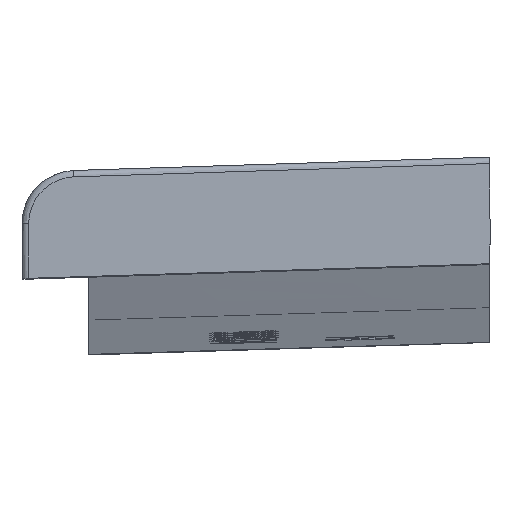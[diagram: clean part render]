
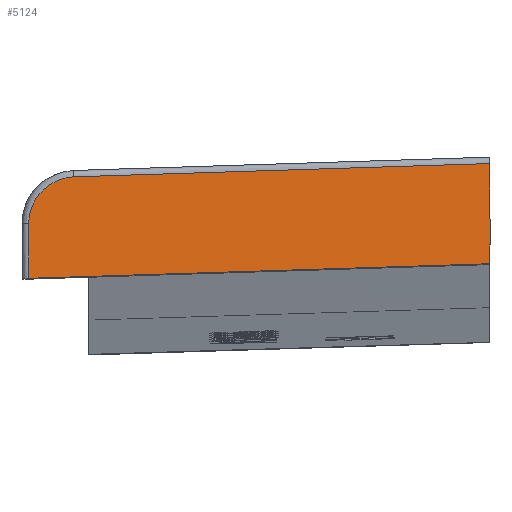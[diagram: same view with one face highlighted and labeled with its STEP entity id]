
A CAD part, left-side view. The second image highlights one B-rep face of the part: STEP entity #5124.
In plain terms, the highlighted planar face has unit normal (-0.999, 0, 0.043).
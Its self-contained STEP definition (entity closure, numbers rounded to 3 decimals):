
#109=PLANE('',#5257);
#369=FACE_OUTER_BOUND('',#671,.T.);
#671=EDGE_LOOP('',(#4403,#4404,#4405,#4406,#4407,#4408,#4409));
#932=LINE('',#14094,#1174);
#935=LINE('',#14100,#1177);
#936=LINE('',#14132,#1178);
#939=LINE('',#14157,#1181);
#1174=VECTOR('',#5641,10.);
#1177=VECTOR('',#5646,10.);
#1178=VECTOR('',#5649,10.);
#1181=VECTOR('',#5654,10.);
#1685=B_SPLINE_CURVE_WITH_KNOTS('',3,(#14064,#14065,#14066,#14067),
 .UNSPECIFIED.,.F.,.F.,(4,4),(1.885,3.267),
 .UNSPECIFIED.);
#1690=B_SPLINE_CURVE_WITH_KNOTS('',3,(#14152,#14153,#14154,#14155,#14156),
 .UNSPECIFIED.,.F.,.F.,(4,1,4),(0.,0.092,0.215),
 .UNSPECIFIED.);
#1691=B_SPLINE_CURVE_WITH_KNOTS('',3,(#14158,#14159,#14160,#14161),
 .UNSPECIFIED.,.F.,.F.,(4,4),(-1.247,-0.001),
 .UNSPECIFIED.);
#2238=VERTEX_POINT('',#14061);
#2239=VERTEX_POINT('',#14063);
#2242=VERTEX_POINT('',#14092);
#2244=VERTEX_POINT('',#14098);
#2245=VERTEX_POINT('',#14102);
#2249=VERTEX_POINT('',#14150);
#2250=VERTEX_POINT('',#14151);
#2984=EDGE_CURVE('',#2239,#2238,#1685,.T.);
#2989=EDGE_CURVE('',#2238,#2242,#932,.T.);
#2992=EDGE_CURVE('',#2242,#2244,#935,.T.);
#2994=EDGE_CURVE('',#2244,#2245,#936,.T.);
#2998=EDGE_CURVE('',#2249,#2250,#1690,.T.);
#2999=EDGE_CURVE('',#2239,#2249,#939,.T.);
#3000=EDGE_CURVE('',#2250,#2245,#1691,.T.);
#4403=ORIENTED_EDGE('',*,*,#2998,.F.);
#4404=ORIENTED_EDGE('',*,*,#2999,.F.);
#4405=ORIENTED_EDGE('',*,*,#2984,.T.);
#4406=ORIENTED_EDGE('',*,*,#2989,.T.);
#4407=ORIENTED_EDGE('',*,*,#2992,.T.);
#4408=ORIENTED_EDGE('',*,*,#2994,.T.);
#4409=ORIENTED_EDGE('',*,*,#3000,.F.);
#5124=ADVANCED_FACE('',(#369),#109,.F.);
#5257=AXIS2_PLACEMENT_3D('',#14149,#5652,#5653);
#5641=DIRECTION('',(0.043,0.,0.999));
#5646=DIRECTION('',(0.043,0.,0.999));
#5649=DIRECTION('',(0.043,0.,0.999));
#5652=DIRECTION('center_axis',(0.999,0.,
-0.043));
#5653=DIRECTION('ref_axis',(0.,1.,0.));
#5654=DIRECTION('',(0.043,0.,0.999));
#14061=CARTESIAN_POINT('',(91.202,51.558,8.224));
#14063=CARTESIAN_POINT('',(91.183,65.369,7.788));
#14064=CARTESIAN_POINT('Ctrl Pts',(91.183,65.369,7.788));
#14065=CARTESIAN_POINT('Ctrl Pts',(91.19,60.766,7.947));
#14066=CARTESIAN_POINT('Ctrl Pts',(91.196,56.162,8.093));
#14067=CARTESIAN_POINT('Ctrl Pts',(91.202,51.558,8.224));
#14092=CARTESIAN_POINT('',(91.227,51.558,8.817));
#14094=CARTESIAN_POINT('',(91.227,51.558,8.802));
#14098=CARTESIAN_POINT('',(91.258,51.558,9.547));
#14100=CARTESIAN_POINT('',(91.252,51.558,9.395));
#14102=CARTESIAN_POINT('',(91.33,51.558,11.223));
#14132=CARTESIAN_POINT('',(91.227,51.558,8.802));
#14149=CARTESIAN_POINT('Origin',(91.406,61.552,13.019));
#14150=CARTESIAN_POINT('',(91.253,65.369,9.428));
#14151=CARTESIAN_POINT('',(91.313,64.018,10.825));
#14152=CARTESIAN_POINT('Ctrl Pts',(91.253,65.369,9.428));
#14153=CARTESIAN_POINT('Ctrl Pts',(91.266,65.369,9.735));
#14154=CARTESIAN_POINT('Ctrl Pts',(91.297,65.125,10.452));
#14155=CARTESIAN_POINT('Ctrl Pts',(91.312,64.427,10.811));
#14156=CARTESIAN_POINT('Ctrl Pts',(91.313,64.018,10.825));
#14157=CARTESIAN_POINT('',(91.309,65.369,10.731));
#14158=CARTESIAN_POINT('Ctrl Pts',(91.313,64.018,10.825));
#14159=CARTESIAN_POINT('Ctrl Pts',(91.319,59.865,10.97));
#14160=CARTESIAN_POINT('Ctrl Pts',(91.325,55.711,11.102));
#14161=CARTESIAN_POINT('Ctrl Pts',(91.33,51.558,11.223));
